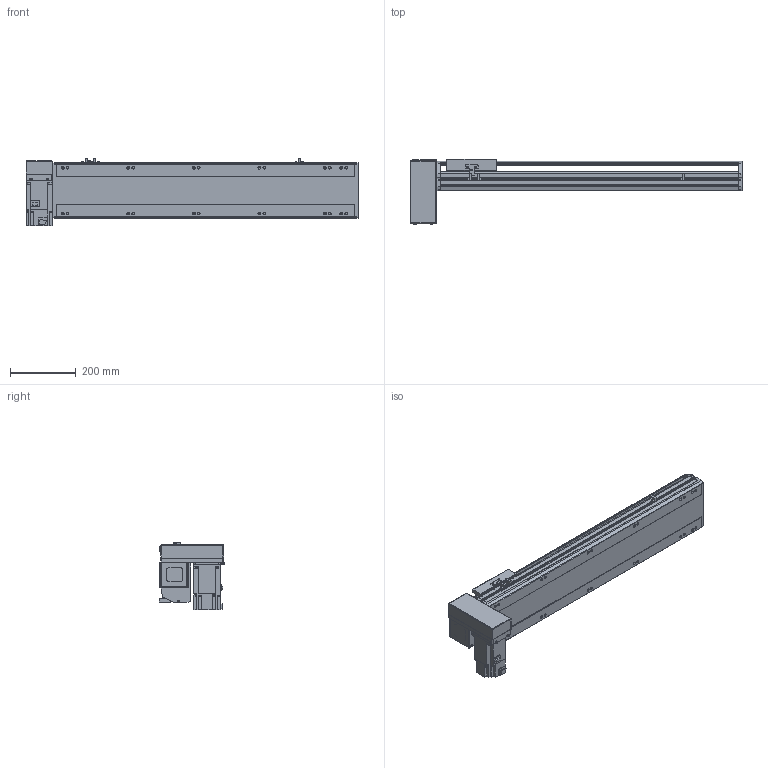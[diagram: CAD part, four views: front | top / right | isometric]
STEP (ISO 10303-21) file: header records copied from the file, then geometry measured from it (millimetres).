
FILE_DESCRIPTION(/* description */ ('STEP AP214'),/* implementation_level */ '2;1');
FILE_NAME(/* name */ 'PBS170-P40-S650-RD-T75-C1-N(0)',/* time_stamp */ '2022-06-08T07:34:37+02:00',/* author */ ('License CC BY-ND 4.0'),/* organization */ ('CADENAS'),/* preprocessor_version */ 'ST-DEVELOPER v18.102',/* originating_system */ 'PARTsolutions',/* authorisation */ ' ');
FILE_SCHEMA (('FEATURE_BASED_PROCESS_PLANNING','AUTOMOTIVE_DESIGN {1 0 10303 214 3 1 1}'));
Length unit declared in the file: millimetre
Products named in the file (7): PBS170-P40-S650-RD-T75-C1-N(0); PBS170_sensor; PBS170_plant; PBS170_sliser; T75-p1; PBS170T-RD_motors; PBS170-S650()_body
Assembly tree (8 placements, depth 2):
  PBS170-P40-S650-RD-T75-C1-N(0)
    PBS170_sensor  x3
    PBS170_plant
    PBS170_sliser
    T75-p1
    PBS170T-RD_motors
    PBS170-S650()_body
Bounding box: 1013 x 201 x 205.3 mm (x, y, z)
Volume: 8493827.1 mm3; surface area: 1140360.8 mm2
Topology: 8 solids, 8 shells, 1050 faces, 2795 edges, 1822 vertices
Faces by surface type: plane 675, cylinder 323, cone 42, sphere 8, torus 2
Full cylindrical faces by diameter (mm): 3.242 x4, 4 x2, 4.4 x4, 4.5 x6, 4.917 x4, 6 x9, 6.647 x20, 7 x2, 7.5 x4, 8 x8, 8.5 x12, 10 x4, 10.5 x12, 11 x2, 30 x2, 40 x1, 70 x1
Entity records: 30202 total; most frequent: CARTESIAN_POINT 5489, DIRECTION 5160, ORIENTED_EDGE 4908, EDGE_CURVE 2454, AXIS2_PLACEMENT_3D 1777, VERTEX_POINT 1682, LINE 1606, VECTOR 1606
